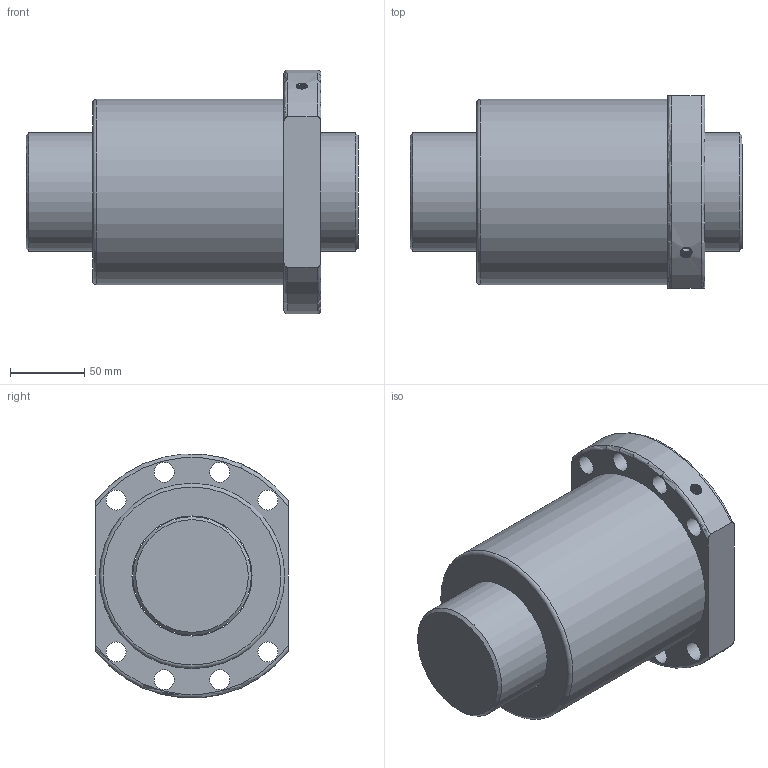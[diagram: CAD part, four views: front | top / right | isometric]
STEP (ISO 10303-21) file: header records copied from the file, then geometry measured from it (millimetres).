
FILE_DESCRIPTION(/* description */ ('Unknown','CAx-IF Rec.Pracs.---Representation and Presentation of Product Manufacturing Information (PMI)---4.0---2014-10-13','CAx-IF Rec.Pracs.---3D Tessellated Geometry---0.4---2014-09-14','2;1'),/* implementation_level */ '2;1');
FILE_NAME(/* name */ 'SFU08020',/* time_stamp */ '2020-12-08T11:42:41+08:00',/* author */ ('Unknown'),/* organization */ ('Unknown'),/* preprocessor_version */ 'ST-DEVELOPER v16.7',/* originating_system */ 'Solid Edge',/* authorisation */ 'Unknown');
FILE_SCHEMA (('AP242_MANAGED_MODEL_BASED_3D_ENGINEERING_MIM_LF { 1 0 10303 442 1 1 4 }'));
Length unit declared in the file: millimetre
Products named in the file (1): SFU08020
Bounding box: 224 x 130 x 164.44 mm (x, y, z)
Volume: 2357597 mm3; surface area: 201583.7 mm2
Topology: 2 solids, 2 shells, 34 faces, 81 edges, 52 vertices
Faces by surface type: cylinder 16, plane 8, torus 5, cone 3, bspline 2
Full cylindrical faces by diameter (mm): 4 x1, 13.5 x8, 80 x1, 81 x1, 125 x1
Entity records: 3064 total; most frequent: CARTESIAN_POINT 2242, DIRECTION 154, ORIENTED_EDGE 128, AXIS2_PLACEMENT_3D 74, EDGE_LOOP 71, FACE_BOUND 71, EDGE_CURVE 64, VERTEX_POINT 51
